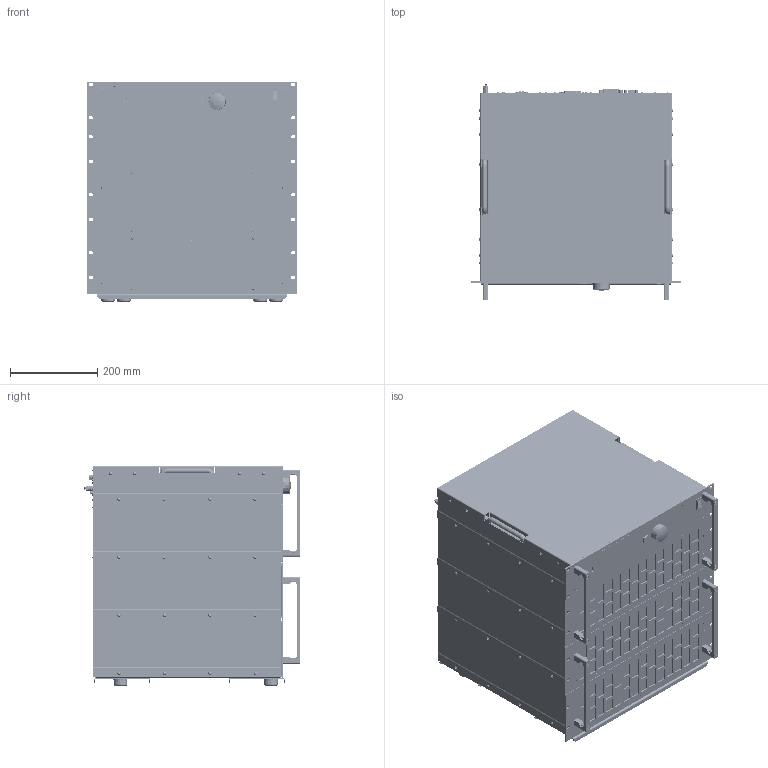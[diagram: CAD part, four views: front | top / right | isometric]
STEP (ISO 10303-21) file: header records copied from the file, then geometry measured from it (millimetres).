
FILE_DESCRIPTION(('STEP AP214'),'1');
FILE_NAME('ACL_M15_19Z_11HE_PH3_7.62-ST41_BRA_3D_03.step','2022-11-23T13:00:51',(' '),(' '),'Spatial InterOp 3D',' ',' ');
FILE_SCHEMA(('AUTOMOTIVE_DESIGN { 1 0 10303 214 1 1 1 1 }'));
Length unit declared in the file: millimetre
Products named in the file (28): ACLS_Steuerteil_PH3_7.62-ST41_BRA_3D_01; *U261; *U262; *U263; *U264; *U265; *U266; *U267; *U298; A$C72AE6952; 2078_ACL_IO Panel_02; 2085_ACL_Rückwand_Steuerteil_Single_Phase_mit_Druck_3D_02; AutoCreatedBlock_324; *U299; AutoCreatedBlock_322; ACL_M15_19Z_11HE_PH3_7.62-ST41_BRA_3D_03; ACLS_3HE_Leistungsteil_Bodenwanne_2_Füße_3D_01; *U255; *U256; *U257; AutoCreatedBlock_326; ACLS_3HE_Leistungsteil_3D_01; *U249; *U250; *U251; AutoCreatedBlock_328; 3158_5HE_ug-05_180; AutoCreatedBlock_320
Assembly tree (109 placements, depth 4):
  ACL_M15_19Z_11HE_PH3_7.62-ST41_BRA_3D_03
    ACLS_Steuerteil_PH3_7.62-ST41_BRA_3D_01
      *U261  x2
      *U262
      *U263  x3
      *U264  x2
      *U265  x2
      *U266  x13
      *U267  x16
      *U298  x6
      A$C72AE6952
      2078_ACL_IO Panel_02
      2085_ACL_Rückwand_Steuerteil_Single_Phase_mit_Druck_3D_02
        AutoCreatedBlock_324
      *U299  x4
      AutoCreatedBlock_322
    ACLS_3HE_Leistungsteil_Bodenwanne_2_Füße_3D_01
      *U255  x8
      *U256  x6
      *U257  x8
      AutoCreatedBlock_326
    ACLS_3HE_Leistungsteil_3D_01  x2
      *U249
      *U250
      *U251
      AutoCreatedBlock_328
    3158_5HE_ug-05_180  x4
    AutoCreatedBlock_320
Bounding box: 482.61 x 497.15 x 505.83 mm (x, y, z)
Volume: 87943509.2 mm3; surface area: 5225004.5 mm2
Topology: 288 solids, 410 shells, 21917 faces, 55184 edges, 34607 vertices
Faces by surface type: plane 10554, cone 7105, cylinder 3556, sphere 261, torus 223, bspline 190, extrusion 28
Entity records: 594550 total; most frequent: CARTESIAN_POINT 115909, DIRECTION 74218, ORIENTED_EDGE 72578, EDGE_CURVE 36443, VECTOR 26130, LINE 26102, AXIS2_PLACEMENT_3D 24044, VERTEX_POINT 23069
